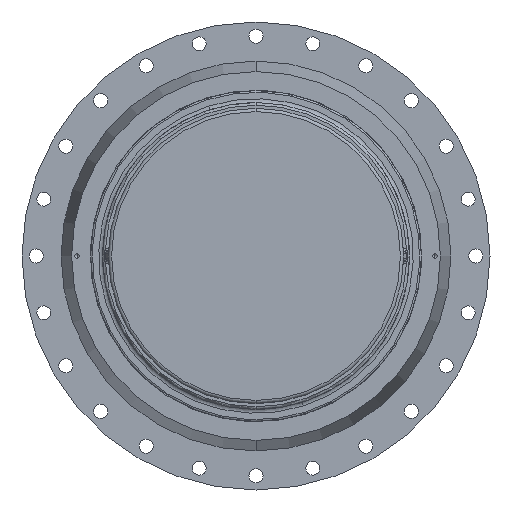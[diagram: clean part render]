
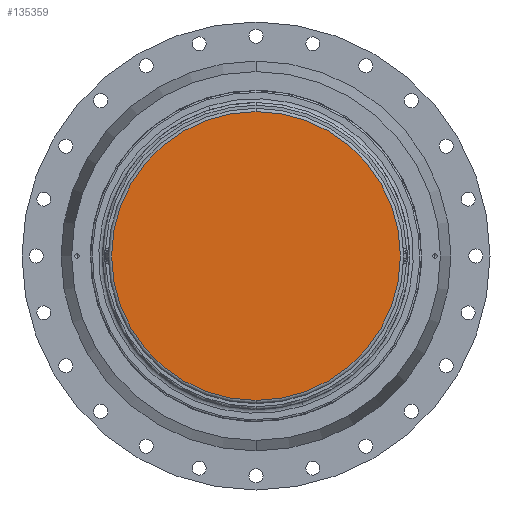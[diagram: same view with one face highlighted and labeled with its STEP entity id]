
A CAD part, front view. The second image highlights one B-rep face of the part: STEP entity #135359.
In plain terms, the highlighted planar face has unit normal (0, -1, 0).
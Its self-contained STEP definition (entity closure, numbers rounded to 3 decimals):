
#1195 = DIRECTION ( 'NONE',  ( 0., -1., 0. ) ) ;
#5511 = AXIS2_PLACEMENT_3D ( 'NONE', #141033, #69653, #153010 ) ;
#9234 = AXIS2_PLACEMENT_3D ( 'NONE', #14692, #98177, #26741 ) ;
#14692 = CARTESIAN_POINT ( 'NONE',  ( -266.25, -800.8, 0. ) ) ;
#26741 = DIRECTION ( 'NONE',  ( 0., 0., -1. ) ) ;
#39827 = ORIENTED_EDGE ( 'NONE', *, *, #104756, .T. ) ;
#64435 = EDGE_LOOP ( 'NONE', ( #39827, #131053 ) ) ;
#69653 = DIRECTION ( 'NONE',  ( 0., -1., 0. ) ) ;
#72806 = CARTESIAN_POINT ( 'NONE',  ( 0., -800.8, 0. ) ) ;
#84209 = FACE_OUTER_BOUND ( 'NONE', #64435, .T. ) ;
#84764 = DIRECTION ( 'NONE',  ( 0., 0., 1. ) ) ;
#93743 = CIRCLE ( 'NONE', #5511, 266.25 ) ;
#98177 = DIRECTION ( 'NONE',  ( 0., -1., 0. ) ) ;
#101206 = CARTESIAN_POINT ( 'NONE',  ( 0., -800.8, -266.25 ) ) ;
#104108 = EDGE_CURVE ( 'NONE', #108489, #138420, #116334, .T. ) ;
#104756 = EDGE_CURVE ( 'NONE', #138420, #108489, #93743, .T. ) ;
#108489 = VERTEX_POINT ( 'NONE', #101206 ) ;
#109610 = PLANE ( 'NONE',  #9234 ) ;
#110405 = AXIS2_PLACEMENT_3D ( 'NONE', #72806, #1195, #84764 ) ;
#114619 = CARTESIAN_POINT ( 'NONE',  ( 0., -800.8, 266.25 ) ) ;
#116334 = CIRCLE ( 'NONE', #110405, 266.25 ) ;
#131053 = ORIENTED_EDGE ( 'NONE', *, *, #104108, .T. ) ;
#135359 = ADVANCED_FACE ( 'NONE', ( #84209 ), #109610, .T. ) ;
#138420 = VERTEX_POINT ( 'NONE', #114619 ) ;
#141033 = CARTESIAN_POINT ( 'NONE',  ( 0., -800.8, 0. ) ) ;
#153010 = DIRECTION ( 'NONE',  ( 0., 0., 1. ) ) ;
